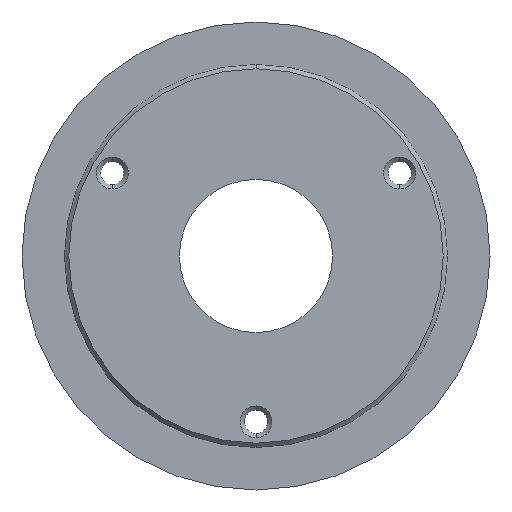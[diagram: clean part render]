
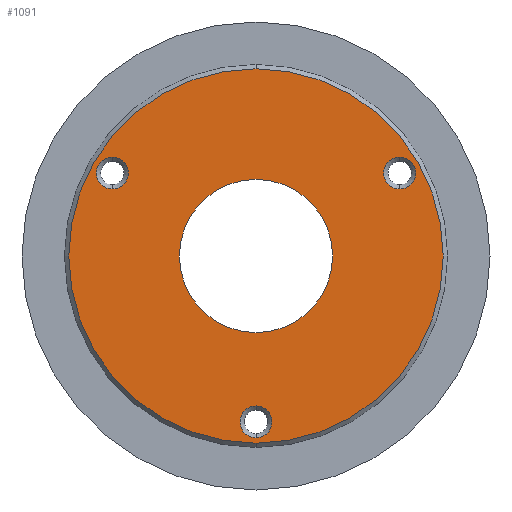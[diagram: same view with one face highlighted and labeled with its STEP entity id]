
A CAD part, front view. The second image highlights one B-rep face of the part: STEP entity #1091.
In plain terms, the highlighted planar face has unit normal (0, -1, 0).
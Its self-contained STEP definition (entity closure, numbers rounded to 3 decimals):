
#2 = ORIENTED_EDGE ( 'NONE', *, *, #917, .T. ) ;
#12 = CIRCLE ( 'NONE', #1016, 44. ) ;
#20 = EDGE_CURVE ( 'NONE', #218, #536, #221, .T. ) ;
#43 = DIRECTION ( 'NONE',  ( 0., -1., 0. ) ) ;
#48 = ORIENTED_EDGE ( 'NONE', *, *, #727, .F. ) ;
#62 = ORIENTED_EDGE ( 'NONE', *, *, #835, .T. ) ;
#65 = VERTEX_POINT ( 'NONE', #329 ) ;
#70 = CIRCLE ( 'NONE', #1175, 44. ) ;
#73 = DIRECTION ( 'NONE',  ( 0., -1., 0. ) ) ;
#79 = EDGE_LOOP ( 'NONE', ( #101, #48 ) ) ;
#82 = EDGE_CURVE ( 'NONE', #679, #1134, #639, .T. ) ;
#89 = VERTEX_POINT ( 'NONE', #366 ) ;
#97 = ORIENTED_EDGE ( 'NONE', *, *, #640, .T. ) ;
#101 = ORIENTED_EDGE ( 'NONE', *, *, #82, .F. ) ;
#114 = CIRCLE ( 'NONE', #1004, 3.75 ) ;
#118 = EDGE_CURVE ( 'NONE', #265, #662, #114, .T. ) ;
#122 = CARTESIAN_POINT ( 'NONE',  ( -33.775, 0., 23.25 ) ) ;
#134 = CARTESIAN_POINT ( 'NONE',  ( 33.775, 0., 19.5 ) ) ;
#141 = DIRECTION ( 'NONE',  ( 0., 0., 1. ) ) ;
#149 = EDGE_LOOP ( 'NONE', ( #2, #97 ) ) ;
#161 = EDGE_LOOP ( 'NONE', ( #921, #1045 ) ) ;
#165 = DIRECTION ( 'NONE',  ( 0., 1., 0. ) ) ;
#166 = DIRECTION ( 'NONE',  ( 0., 0., 1. ) ) ;
#178 = AXIS2_PLACEMENT_3D ( 'NONE', #134, #797, #703 ) ;
#195 = FACE_BOUND ( 'NONE', #564, .T. ) ;
#218 = VERTEX_POINT ( 'NONE', #910 ) ;
#221 = CIRCLE ( 'NONE', #1116, 3.75 ) ;
#265 = VERTEX_POINT ( 'NONE', #122 ) ;
#288 = DIRECTION ( 'NONE',  ( 0., -1., 0. ) ) ;
#298 = CARTESIAN_POINT ( 'NONE',  ( 33.775, 0., 19.5 ) ) ;
#302 = PLANE ( 'NONE',  #842 ) ;
#318 = AXIS2_PLACEMENT_3D ( 'NONE', #710, #890, #668 ) ;
#319 = FACE_BOUND ( 'NONE', #79, .T. ) ;
#329 = CARTESIAN_POINT ( 'NONE',  ( 33.775, 0., 23.25 ) ) ;
#362 = AXIS2_PLACEMENT_3D ( 'NONE', #604, #43, #418 ) ;
#366 = CARTESIAN_POINT ( 'NONE',  ( 0., 0., 44. ) ) ;
#378 = AXIS2_PLACEMENT_3D ( 'NONE', #794, #463, #1138 ) ;
#418 = DIRECTION ( 'NONE',  ( 0., 0., -1. ) ) ;
#424 = CARTESIAN_POINT ( 'NONE',  ( 0., 0., 0. ) ) ;
#437 = VERTEX_POINT ( 'NONE', #1090 ) ;
#463 = DIRECTION ( 'NONE',  ( 0., 1., 0. ) ) ;
#468 = CARTESIAN_POINT ( 'NONE',  ( 0., 0., -35.25 ) ) ;
#500 = EDGE_CURVE ( 'NONE', #662, #265, #1154, .T. ) ;
#520 = EDGE_CURVE ( 'NONE', #536, #218, #652, .T. ) ;
#524 = CARTESIAN_POINT ( 'NONE',  ( 0., 0., -39. ) ) ;
#533 = DIRECTION ( 'NONE',  ( 0., -1., 0. ) ) ;
#536 = VERTEX_POINT ( 'NONE', #468 ) ;
#538 = DIRECTION ( 'NONE',  ( 0., 0., -1. ) ) ;
#547 = DIRECTION ( 'NONE',  ( 0., 0., 1. ) ) ;
#551 = DIRECTION ( 'NONE',  ( 0., 1., 0. ) ) ;
#564 = EDGE_LOOP ( 'NONE', ( #1167, #648 ) ) ;
#565 = FACE_BOUND ( 'NONE', #161, .T. ) ;
#573 = DIRECTION ( 'NONE',  ( 0., 1., 0. ) ) ;
#604 = CARTESIAN_POINT ( 'NONE',  ( 0., 0., 0. ) ) ;
#639 = CIRCLE ( 'NONE', #749, 18. ) ;
#640 = EDGE_CURVE ( 'NONE', #437, #89, #12, .T. ) ;
#648 = ORIENTED_EDGE ( 'NONE', *, *, #118, .T. ) ;
#652 = CIRCLE ( 'NONE', #378, 3.75 ) ;
#660 = CARTESIAN_POINT ( 'NONE',  ( 0., 0., 0. ) ) ;
#662 = VERTEX_POINT ( 'NONE', #762 ) ;
#668 = DIRECTION ( 'NONE',  ( 0., 0., 1. ) ) ;
#679 = VERTEX_POINT ( 'NONE', #982 ) ;
#685 = FACE_OUTER_BOUND ( 'NONE', #149, .T. ) ;
#703 = DIRECTION ( 'NONE',  ( 0., 0., 1. ) ) ;
#705 = EDGE_CURVE ( 'NONE', #65, #728, #826, .T. ) ;
#710 = CARTESIAN_POINT ( 'NONE',  ( -33.775, 0., 19.5 ) ) ;
#727 = EDGE_CURVE ( 'NONE', #1134, #679, #1009, .T. ) ;
#728 = VERTEX_POINT ( 'NONE', #970 ) ;
#736 = AXIS2_PLACEMENT_3D ( 'NONE', #298, #165, #141 ) ;
#749 = AXIS2_PLACEMENT_3D ( 'NONE', #1088, #533, #538 ) ;
#762 = CARTESIAN_POINT ( 'NONE',  ( -33.775, 0., 15.75 ) ) ;
#771 = DIRECTION ( 'NONE',  ( 0., 0., 1. ) ) ;
#789 = DIRECTION ( 'NONE',  ( 0., 0., 1. ) ) ;
#794 = CARTESIAN_POINT ( 'NONE',  ( 0., 0., -39. ) ) ;
#797 = DIRECTION ( 'NONE',  ( 0., 1., 0. ) ) ;
#826 = CIRCLE ( 'NONE', #178, 3.75 ) ;
#835 = EDGE_CURVE ( 'NONE', #728, #65, #1141, .T. ) ;
#842 = AXIS2_PLACEMENT_3D ( 'NONE', #1147, #573, #771 ) ;
#853 = DIRECTION ( 'NONE',  ( 0., 0., 1. ) ) ;
#866 = DIRECTION ( 'NONE',  ( 0., 1., 0. ) ) ;
#870 = CARTESIAN_POINT ( 'NONE',  ( -33.775, 0., 19.5 ) ) ;
#890 = DIRECTION ( 'NONE',  ( 0., 1., 0. ) ) ;
#907 = ORIENTED_EDGE ( 'NONE', *, *, #705, .T. ) ;
#910 = CARTESIAN_POINT ( 'NONE',  ( 0., 0., -42.75 ) ) ;
#917 = EDGE_CURVE ( 'NONE', #89, #437, #70, .T. ) ;
#921 = ORIENTED_EDGE ( 'NONE', *, *, #20, .T. ) ;
#959 = CARTESIAN_POINT ( 'NONE',  ( 0., 0., 18. ) ) ;
#970 = CARTESIAN_POINT ( 'NONE',  ( 33.775, 0., 15.75 ) ) ;
#982 = CARTESIAN_POINT ( 'NONE',  ( 0., 0., -18. ) ) ;
#1004 = AXIS2_PLACEMENT_3D ( 'NONE', #870, #866, #853 ) ;
#1009 = CIRCLE ( 'NONE', #362, 18. ) ;
#1016 = AXIS2_PLACEMENT_3D ( 'NONE', #660, #288, #789 ) ;
#1041 = FACE_BOUND ( 'NONE', #1108, .T. ) ;
#1045 = ORIENTED_EDGE ( 'NONE', *, *, #520, .T. ) ;
#1088 = CARTESIAN_POINT ( 'NONE',  ( 0., 0., 0. ) ) ;
#1090 = CARTESIAN_POINT ( 'NONE',  ( 0., 0., -44. ) ) ;
#1091 = ADVANCED_FACE ( 'NONE', ( #195, #1041, #565, #685, #319 ), #302, .F. ) ;
#1108 = EDGE_LOOP ( 'NONE', ( #62, #907 ) ) ;
#1116 = AXIS2_PLACEMENT_3D ( 'NONE', #524, #551, #547 ) ;
#1134 = VERTEX_POINT ( 'NONE', #959 ) ;
#1138 = DIRECTION ( 'NONE',  ( 0., 0., 1. ) ) ;
#1141 = CIRCLE ( 'NONE', #736, 3.75 ) ;
#1147 = CARTESIAN_POINT ( 'NONE',  ( -18., 0., 0. ) ) ;
#1154 = CIRCLE ( 'NONE', #318, 3.75 ) ;
#1167 = ORIENTED_EDGE ( 'NONE', *, *, #500, .T. ) ;
#1175 = AXIS2_PLACEMENT_3D ( 'NONE', #424, #73, #166 ) ;
